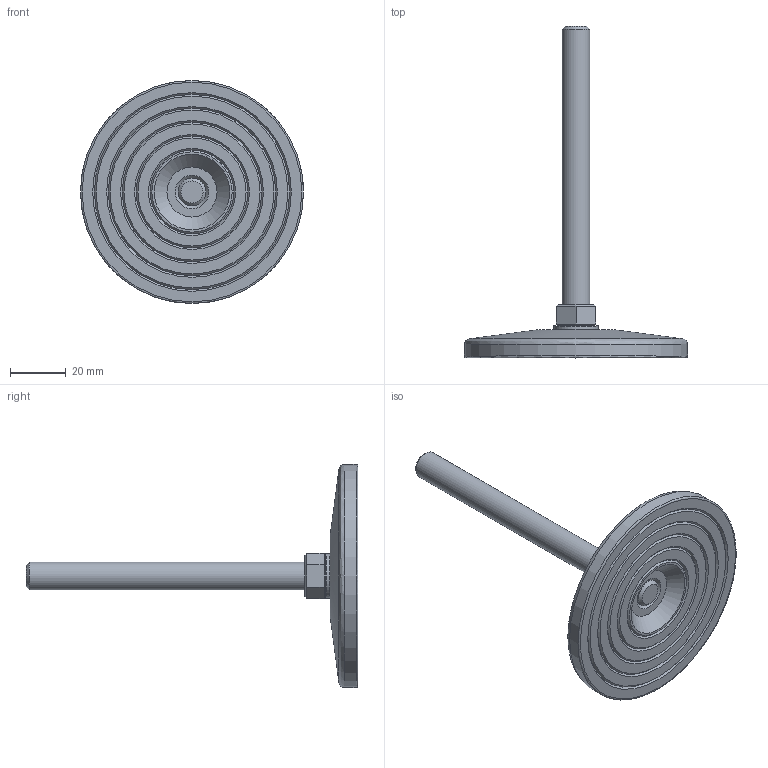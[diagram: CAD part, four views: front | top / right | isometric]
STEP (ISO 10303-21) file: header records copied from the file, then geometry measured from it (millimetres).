
FILE_DESCRIPTION(('STEP AP203'),'2;1');
FILE_NAME('15414-10.stp','2015-09-11T10:59:08',(''),(''),'2008.1.107','THINKDESIGN','');
FILE_SCHEMA(('CONFIG_CONTROL_DESIGN'));
Length unit declared in the file: millimetre
Bounding box: 80 x 119 x 80 mm (x, y, z)
Volume: 48593.3 mm3; surface area: 16783.7 mm2
Topology: 5 solids, 5 shells, 59 faces, 139 edges, 96 vertices
Faces by surface type: bspline 32, plane 22, cylinder 5
Full cylindrical faces by diameter (mm): 10 x3, 16 x1, 80 x1
Entity records: 2848 total; most frequent: CARTESIAN_POINT 1415, ORIENTED_EDGE 278, DIRECTION 270, EDGE_CURVE 139, AXIS2_PLACEMENT_3D 104, VERTEX_POINT 96, CIRCLE 77, EDGE_LOOP 67
